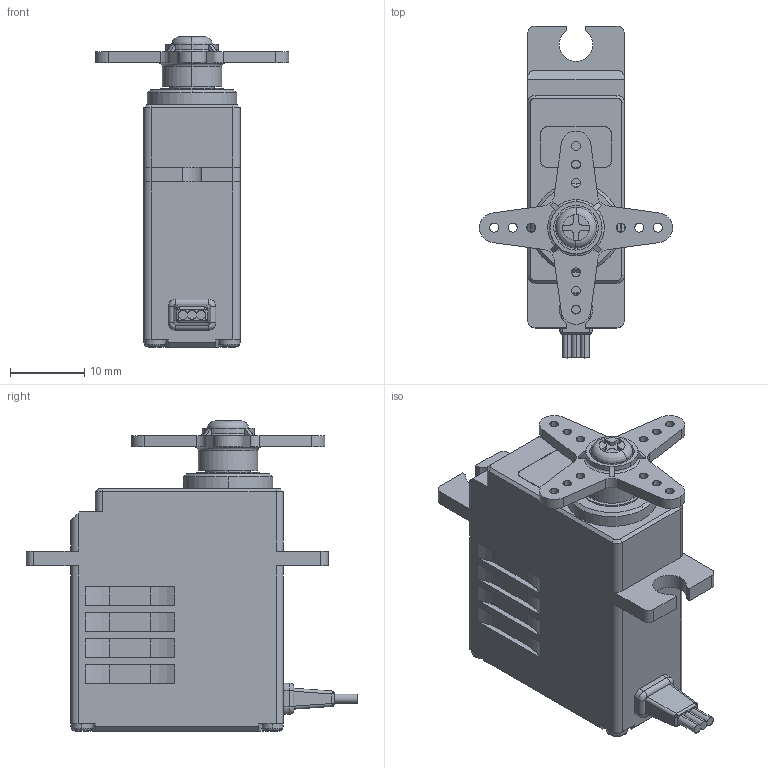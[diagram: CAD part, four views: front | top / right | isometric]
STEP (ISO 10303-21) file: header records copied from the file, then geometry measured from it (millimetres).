
FILE_DESCRIPTION (( 'STEP AP203' ), '1' );
FILE_NAME ('BLA13-06H-A01(3D).STEP', '2022-12-06T03:05:33', ( '' ), ( '' ), 'SwSTEP 2.0', 'SolidWorks 2022', '' );
FILE_SCHEMA (( 'CONFIG_CONTROL_DESIGN' ));
Length unit declared in the file: millimetre
Products named in the file (4): HORN; SCREW M3x6; BLA13-06H-A01(3D); BLA13-06H-A01
Assembly tree (3 placements, depth 2):
  BLA13-06H-A01(3D)
    BLA13-06H-A01
    HORN
    SCREW M3x6
Bounding box: 25.99 x 44.6 x 41.7 mm (x, y, z)
Volume: 12767.9 mm3; surface area: 5185.9 mm2
Topology: 3 solids, 3 shells, 336 faces, 869 edges, 568 vertices
Faces by surface type: plane 148, cylinder 139, bspline 18, cone 18, torus 13
Entity records: 11065 total; most frequent: CARTESIAN_POINT 2301, DIRECTION 1772, ORIENTED_EDGE 1738, EDGE_CURVE 869, AXIS2_PLACEMENT_3D 649, VERTEX_POINT 568, LINE 474, VECTOR 474
